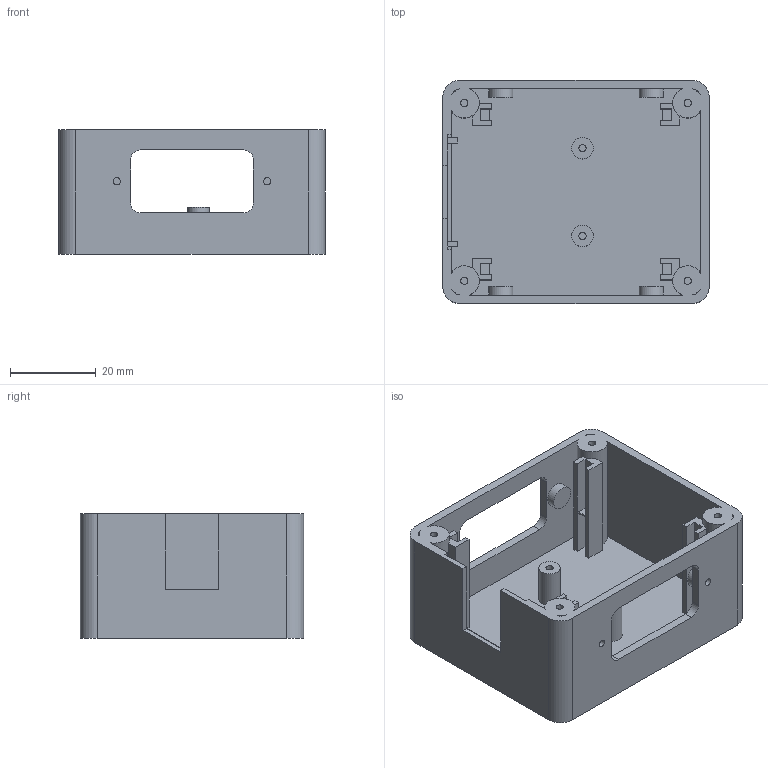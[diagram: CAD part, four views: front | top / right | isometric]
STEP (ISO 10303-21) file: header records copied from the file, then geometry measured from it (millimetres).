
FILE_DESCRIPTION(('Open CASCADE Model'),'2;1');
FILE_NAME('Open CASCADE Shape Model','2026-11-08T21:30:42',('Author'),( 'Open CASCADE'),'Open CASCADE STEP processor 7.8','Open CASCADE 7.8' ,'Unknown');
FILE_SCHEMA(('AUTOMOTIVE_DESIGN { 1 0 10303 214 1 1 1 1 }'));
Length unit declared in the file: millimetre
Products named in the file (1): Open CASCADE STEP translator 7.8 1
Bounding box: 62 x 52 x 29 mm (x, y, z)
Volume: 21368.2 mm3; surface area: 20296.9 mm2
Topology: 1 solids, 1 shells, 150 faces, 384 edges, 256 vertices
Faces by surface type: plane 110, cylinder 40
Full cylindrical faces by diameter (mm): 1.7 x10, 5 x2, 5.6 x4
Entity records: 9354 total; most frequent: CARTESIAN_POINT 2066, DIRECTION 1210, ORIENTED_EDGE 768, PCURVE 768, DEFINITIONAL_REPRESENTATION 768, LINE 679, VECTOR 679, EDGE_CURVE 384
